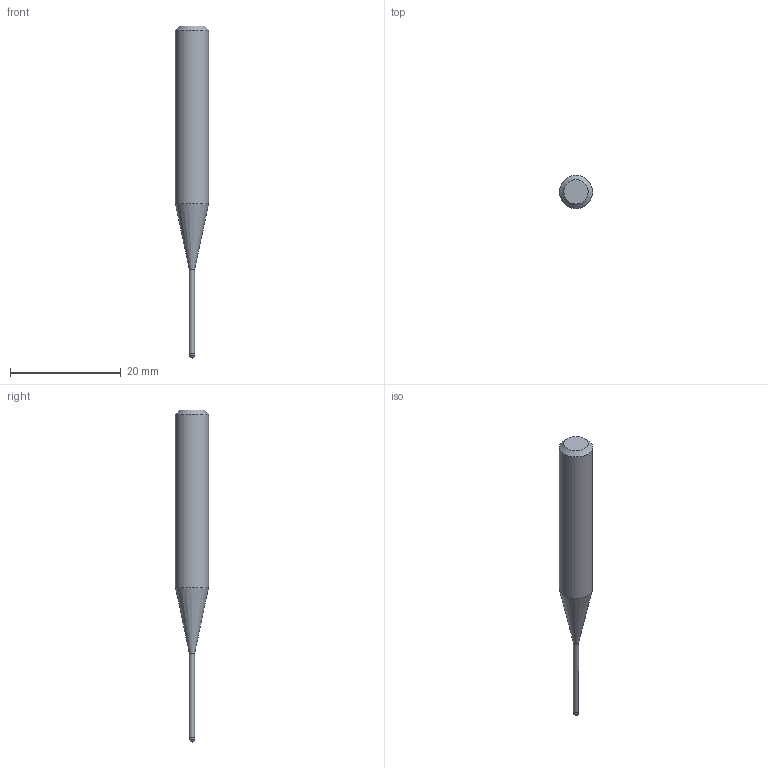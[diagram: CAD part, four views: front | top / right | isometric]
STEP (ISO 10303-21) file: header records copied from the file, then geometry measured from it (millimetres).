
FILE_DESCRIPTION((''),'2;1');
FILE_NAME('C:\Users\nsx150\AppData\Local\Temp\Mastercam 2021\3SYKECWX22\TEMP.step','2021-04-22T10:02:32',(''),(''),'STEP Write','Mastercam 2021 ... CNC Software, Inc.','');
FILE_SCHEMA(('AUTOMOTIVE_DESIGN'));
Length unit declared in the file: millimetre
Products named in the file (1): None
Bounding box: 6 x 6 x 60 mm (x, y, z)
Volume: 1046.5 mm3; surface area: 806 mm2
Topology: 2 solids, 2 shells, 9 faces, 14 edges, 8 vertices
Faces by surface type: plane 3, cylinder 3, cone 2, sphere 1
Full cylindrical faces by diameter (mm): 0.95 x1, 1 x1, 6 x1
Entity records: 211 total; most frequent: DIRECTION 36, CARTESIAN_POINT 25, AXIS2_PLACEMENT_3D 18, ORIENTED_EDGE 14, EDGE_LOOP 14, STYLED_ITEM 12, ADVANCED_FACE 9, FACE_BOUND 8
